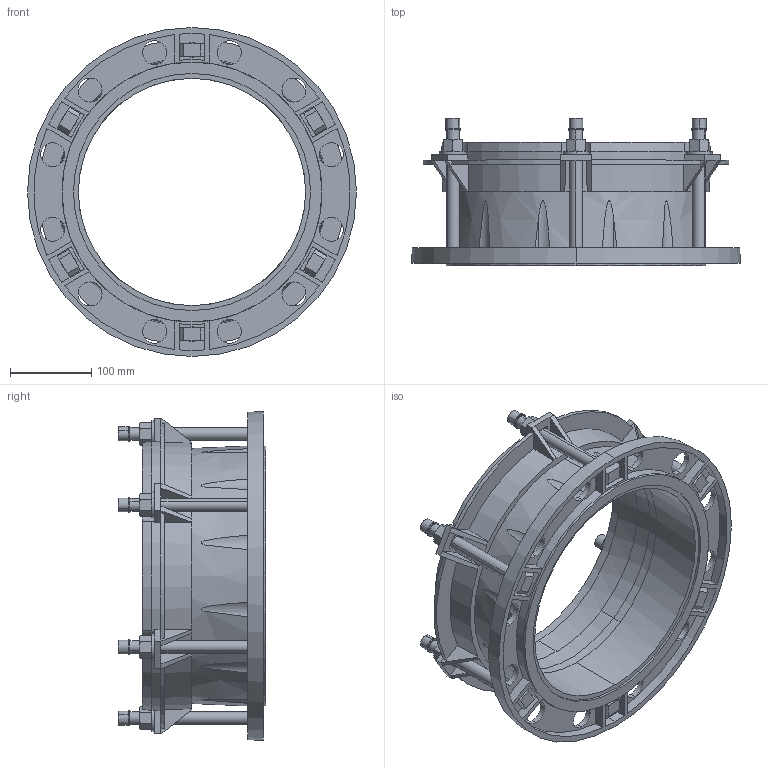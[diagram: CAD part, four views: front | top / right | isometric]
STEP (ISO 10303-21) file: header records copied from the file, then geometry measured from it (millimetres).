
FILE_DESCRIPTION (( 'STEP AP203' ), '1' );
FILE_NAME ('O_623_10_DN250-280mm_X1XXXXX_REV01.step', '2020-04-17T09:21:16', ( '' ), ( '' ), 'SwSTEP 2.0', 'SolidWorks 2019', '' );
FILE_SCHEMA (( 'CONFIG_CONTROL_DESIGN' ));
Length unit declared in the file: millimetre
Products named in the file (1): O_623_10_DN250-280mm_X1XXXXX_REV01
Bounding box: 405 x 181.5 x 405 mm (x, y, z)
Volume: 3865238.6 mm3; surface area: 600515 mm2
Topology: 1 solids, 1 shells, 632 faces, 1609 edges, 1012 vertices
Faces by surface type: plane 310, cylinder 221, cone 101
Entity records: 20506 total; most frequent: CARTESIAN_POINT 5040, DIRECTION 3221, ORIENTED_EDGE 3218, EDGE_CURVE 1609, AXIS2_PLACEMENT_3D 1211, VERTEX_POINT 1012, VECTOR 799, LINE 799
